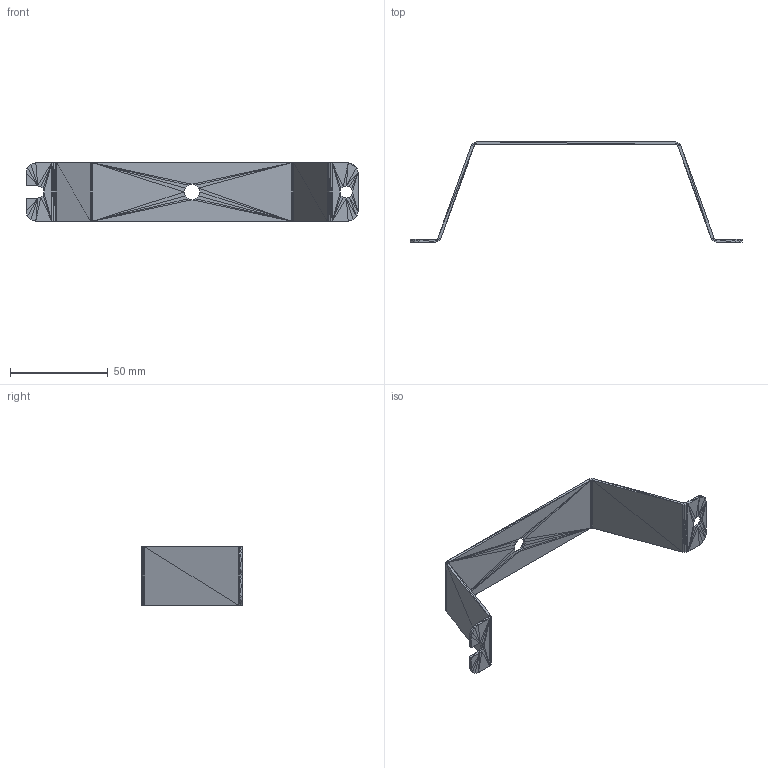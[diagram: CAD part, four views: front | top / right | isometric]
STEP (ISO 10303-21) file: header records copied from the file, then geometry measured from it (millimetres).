
FILE_DESCRIPTION((''),'2;1');
FILE_NAME('051086', '2026-01-28T14:47:23', (''), (''), 'ImageToStl.com STEP Converter','', '');
FILE_SCHEMA(('AUTOMOTIVE_DESIGN_CC2'));
Length unit declared in the file: metre
Products named in the file (1): product0
Bounding box: 170 x 51.5 x 30 mm (x, y, z)
Surface area: 14893.8 mm2 (no closed solid volume)
Topology: 0 solids, 328 shells, 328 faces, 984 edges, 162 vertices
Faces by surface type: plane 328
Entity records: 7568 total; most frequent: DIRECTION 1642, ORIENTED_EDGE 984, EDGE_CURVE 984, LINE 984, VECTOR 984, AXIS2_PLACEMENT_3D 329, FACE_SURFACE 328, PLANE 328
